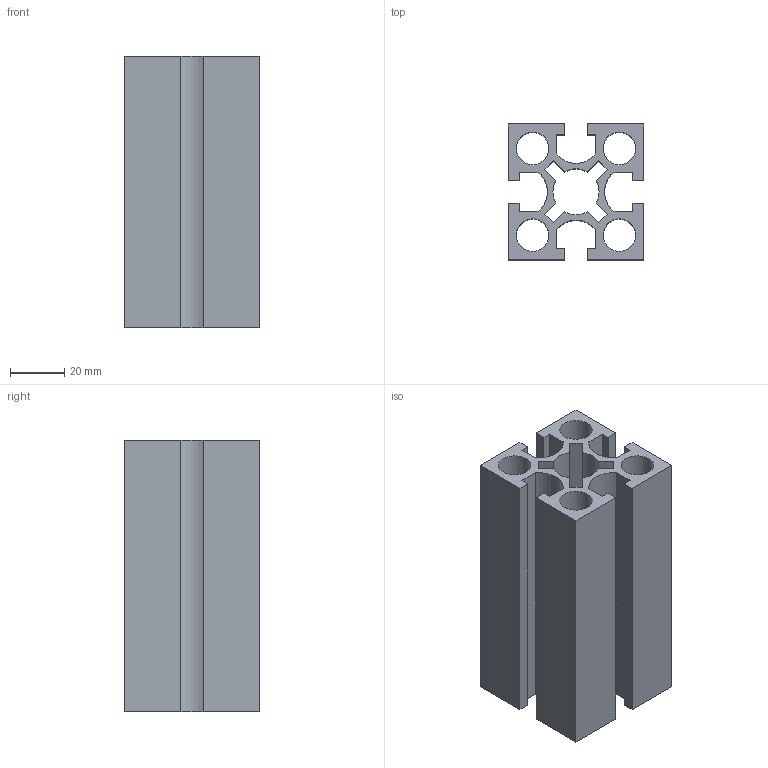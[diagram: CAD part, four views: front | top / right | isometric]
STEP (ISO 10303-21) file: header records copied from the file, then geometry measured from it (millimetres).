
FILE_DESCRIPTION(/* description */ (''),/* implementation_level */ '2;1');
FILE_NAME(/* name */ 'C:\Users\Owner\Documents\硯聰\Inv材料庫-3D新型錄\AM-(鋁擠)\8系列\AM8-5050.stp',/* time_stamp */ '2019-03-08T11:28:25+08:00',/* author */ ('Owner'),/* organization */ (''),/* preprocessor_version */ 'ST-DEVELOPER v16.1',/* originating_system */ 'Autodesk Inventor 2016',/* authorisation */ '');
FILE_SCHEMA (('AUTOMOTIVE_DESIGN { 1 0 10303 214 3 1 1 }'));
Length unit declared in the file: millimetre
Products named in the file (1): AM8-5050
Bounding box: 50 x 50 x 100 mm (x, y, z)
Volume: 103637.8 mm3; surface area: 61576.8 mm2
Topology: 1 solids, 1 shells, 58 faces, 168 edges, 112 vertices
Faces by surface type: plane 46, cylinder 12
Full cylindrical faces by diameter (mm): 12 x4
Entity records: 1920 total; most frequent: CARTESIAN_POINT 335, ORIENTED_EDGE 328, DIRECTION 306, EDGE_CURVE 164, LINE 140, VECTOR 140, VERTEX_POINT 112, AXIS2_PLACEMENT_3D 83
